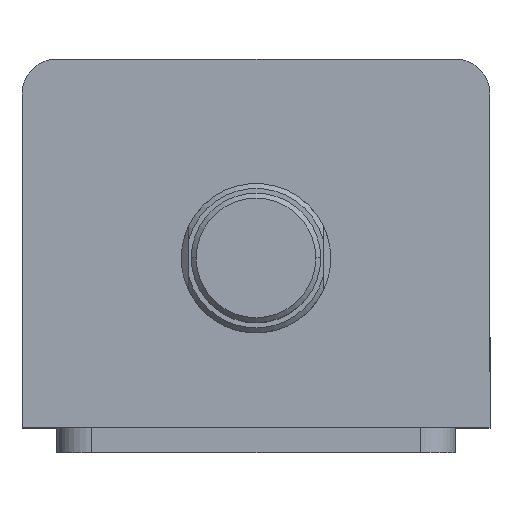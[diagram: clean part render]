
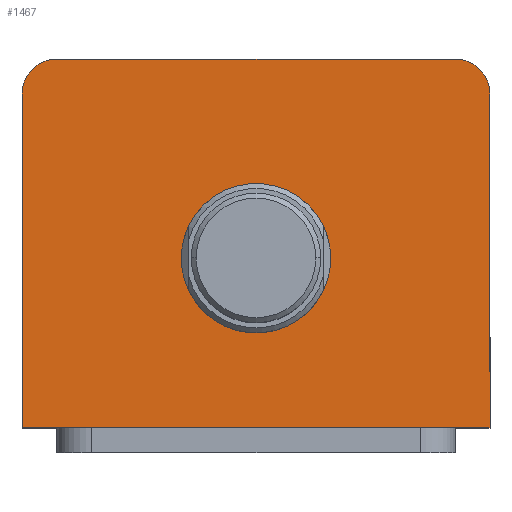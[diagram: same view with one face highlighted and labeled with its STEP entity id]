
A CAD part, top view. The second image highlights one B-rep face of the part: STEP entity #1467.
In plain terms, the highlighted planar face has unit normal (0, 0, 1).
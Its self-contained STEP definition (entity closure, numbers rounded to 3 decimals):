
#11 = EDGE_LOOP ( 'NONE', ( #2908, #2907 ) ) ;
#16 = EDGE_LOOP ( 'NONE', ( #2906, #2905, #2904, #2884, #2883, #2882 ) ) ;
#134 = LINE ( 'NONE', #2009, #137 ) ;
#137 = VECTOR ( 'NONE', #2006, 1000. ) ;
#140 = CIRCLE ( 'NONE', #1567, 7. ) ;
#150 = CIRCLE ( 'NONE', #1560, 7. ) ;
#162 = LINE ( 'NONE', #1919, #165 ) ;
#165 = VECTOR ( 'NONE', #1917, 1000. ) ;
#264 = FACE_BOUND ( 'NONE', #11, .T. ) ;
#268 = FACE_OUTER_BOUND ( 'NONE', #16, .T. ) ;
#353 = VERTEX_POINT ( 'NONE', #895 ) ;
#357 = VERTEX_POINT ( 'NONE', #893 ) ;
#365 = VERTEX_POINT ( 'NONE', #882 ) ;
#379 = VERTEX_POINT ( 'NONE', #868 ) ;
#418 = VERTEX_POINT ( 'NONE', #928 ) ;
#434 = VERTEX_POINT ( 'NONE', #931 ) ;
#442 = VERTEX_POINT ( 'NONE', #954 ) ;
#695 = EDGE_CURVE ( 'NONE', #365, #3078, #3069, .T. ) ;
#843 = CARTESIAN_POINT ( 'NONE',  ( 0., -3., 100. ) ) ;
#849 = DIRECTION ( 'NONE',  ( 0., 0., 1. ) ) ;
#868 = CARTESIAN_POINT ( 'NONE',  ( -47., -37., 100. ) ) ;
#882 = CARTESIAN_POINT ( 'NONE',  ( 15., -3., 100. ) ) ;
#893 = CARTESIAN_POINT ( 'NONE',  ( -40., 37., 100. ) ) ;
#895 = CARTESIAN_POINT ( 'NONE',  ( 40., 37., 100. ) ) ;
#928 = CARTESIAN_POINT ( 'NONE',  ( 47., 30., 100. ) ) ;
#929 = DIRECTION ( 'NONE',  ( 1., 0., 0. ) ) ;
#931 = CARTESIAN_POINT ( 'NONE',  ( 47., -37., 100. ) ) ;
#954 = CARTESIAN_POINT ( 'NONE',  ( -47., 30., 100. ) ) ;
#1007 = DIRECTION ( 'NONE',  ( -1., 0., 0. ) ) ;
#1008 = CARTESIAN_POINT ( 'NONE',  ( -47., 37., 100. ) ) ;
#1058 = DIRECTION ( 'NONE',  ( 1., 0., 0. ) ) ;
#1059 = DIRECTION ( 'NONE',  ( 0., 0., 1. ) ) ;
#1060 = CARTESIAN_POINT ( 'NONE',  ( 0., -3., 100. ) ) ;
#1467 = ADVANCED_FACE ( 'NONE', ( #264, #268 ), #2401, .T. ) ;
#1560 = AXIS2_PLACEMENT_3D ( 'NONE', #1955, #1954, #1953 ) ;
#1567 = AXIS2_PLACEMENT_3D ( 'NONE', #1988, #1987, #1986 ) ;
#1620 = AXIS2_PLACEMENT_3D ( 'NONE', #2399, #2407, #2408 ) ;
#1654 = AXIS2_PLACEMENT_3D ( 'NONE', #1060, #1059, #1058 ) ;
#1717 = AXIS2_PLACEMENT_3D ( 'NONE', #843, #849, #929 ) ;
#1744 = EDGE_CURVE ( 'NONE', #3078, #365, #2660, .T. ) ;
#1760 = EDGE_CURVE ( 'NONE', #353, #357, #2692, .T. ) ;
#1764 = EDGE_CURVE ( 'NONE', #379, #434, #2696, .T. ) ;
#1917 = DIRECTION ( 'NONE',  ( 0., -1., 0. ) ) ;
#1919 = CARTESIAN_POINT ( 'NONE',  ( -47., 37., 100. ) ) ;
#1927 = CARTESIAN_POINT ( 'NONE',  ( -15., -3., 100. ) ) ;
#1953 = DIRECTION ( 'NONE',  ( 1., 0., 0. ) ) ;
#1954 = DIRECTION ( 'NONE',  ( 0., 0., 1. ) ) ;
#1955 = CARTESIAN_POINT ( 'NONE',  ( -40., 30., 100. ) ) ;
#1986 = DIRECTION ( 'NONE',  ( 1., 0., 0. ) ) ;
#1987 = DIRECTION ( 'NONE',  ( 0., 0., 1. ) ) ;
#1988 = CARTESIAN_POINT ( 'NONE',  ( 40., 30., 100. ) ) ;
#2006 = DIRECTION ( 'NONE',  ( 0., 1., 0. ) ) ;
#2009 = CARTESIAN_POINT ( 'NONE',  ( 47., 37., 100. ) ) ;
#2142 = DIRECTION ( 'NONE',  ( 1., 0., 0. ) ) ;
#2152 = CARTESIAN_POINT ( 'NONE',  ( -47., -37., 100. ) ) ;
#2245 = EDGE_CURVE ( 'NONE', #434, #418, #134, .T. ) ;
#2250 = EDGE_CURVE ( 'NONE', #418, #353, #140, .T. ) ;
#2258 = EDGE_CURVE ( 'NONE', #357, #442, #150, .T. ) ;
#2267 = EDGE_CURVE ( 'NONE', #442, #379, #162, .T. ) ;
#2399 = CARTESIAN_POINT ( 'NONE',  ( 0., 0., 100. ) ) ;
#2401 = PLANE ( 'NONE',  #1620 ) ;
#2407 = DIRECTION ( 'NONE',  ( 0., 0., 1. ) ) ;
#2408 = DIRECTION ( 'NONE',  ( 1., 0., 0. ) ) ;
#2660 = CIRCLE ( 'NONE', #1654, 15. ) ;
#2692 = LINE ( 'NONE', #1008, #2695 ) ;
#2695 = VECTOR ( 'NONE', #1007, 1000. ) ;
#2696 = LINE ( 'NONE', #2152, #2701 ) ;
#2701 = VECTOR ( 'NONE', #2142, 1000. ) ;
#2882 = ORIENTED_EDGE ( 'NONE', *, *, #2250, .T. ) ;
#2883 = ORIENTED_EDGE ( 'NONE', *, *, #2245, .T. ) ;
#2884 = ORIENTED_EDGE ( 'NONE', *, *, #1764, .T. ) ;
#2904 = ORIENTED_EDGE ( 'NONE', *, *, #2267, .T. ) ;
#2905 = ORIENTED_EDGE ( 'NONE', *, *, #2258, .T. ) ;
#2906 = ORIENTED_EDGE ( 'NONE', *, *, #1760, .T. ) ;
#2907 = ORIENTED_EDGE ( 'NONE', *, *, #1744, .F. ) ;
#2908 = ORIENTED_EDGE ( 'NONE', *, *, #695, .F. ) ;
#3069 = CIRCLE ( 'NONE', #1717, 15. ) ;
#3078 = VERTEX_POINT ( 'NONE', #1927 ) ;
